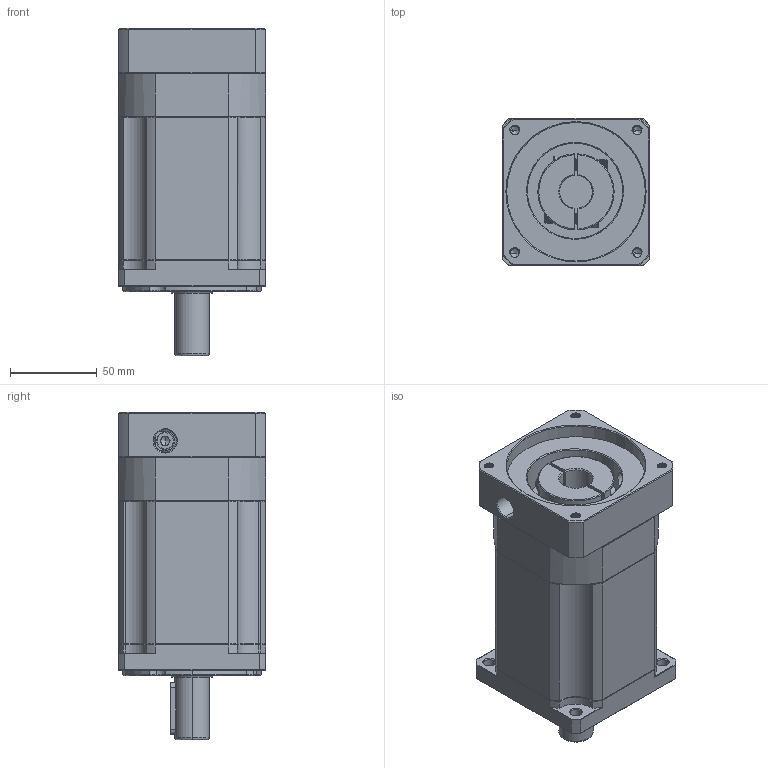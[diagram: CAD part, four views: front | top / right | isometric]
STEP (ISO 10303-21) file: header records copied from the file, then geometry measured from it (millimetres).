
FILE_DESCRIPTION (( 'STEP AP214' ), '1' );
FILE_NAME ('ZB090-D20-L3-P2-19-80-100-M6.step', '2023-08-18T12:12:00', ( '' ), ( '' ), 'SwSTEP 2.0', 'SolidWorks 2016', '' );
FILE_SCHEMA (( 'AUTOMOTIVE_DESIGN' ));
Length unit declared in the file: millimetre
Products named in the file (1): ZB090-D20-L3-P2-19-80-100-M6
Bounding box: 85 x 85 x 189 mm (x, y, z)
Volume: 902011 mm3; surface area: 101263.6 mm2
Topology: 4 solids, 5 shells, 2220 faces, 5886 edges, 3751 vertices
Faces by surface type: plane 1066, bspline 397, cylinder 396, cone 334, torus 27
Entity records: 120625 total; most frequent: CARTESIAN_POINT 44538, ORIENTED_EDGE 11728, DIRECTION 9172, EDGE_CURVE 5864, VERTEX_POINT 3751, VECTOR 3724, LINE 3724, AXIS2_PLACEMENT_3D 2724
